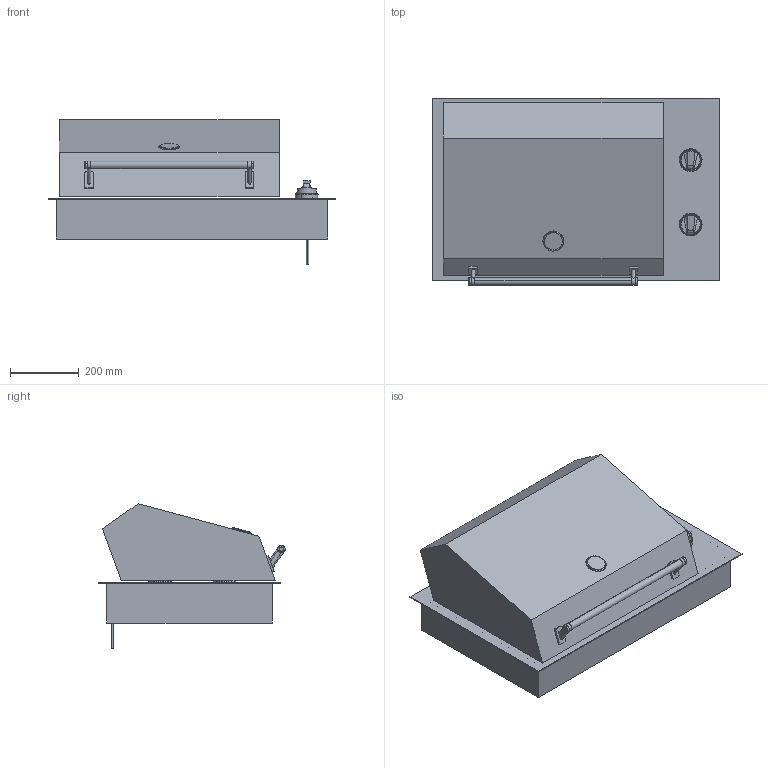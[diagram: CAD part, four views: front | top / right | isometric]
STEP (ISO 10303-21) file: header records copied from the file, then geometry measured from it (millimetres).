
FILE_DESCRIPTION(/* description */ ('Unknown'),/* implementation_level */ '2;1');
FILE_NAME(/* name */ 'BBQE90X',/* time_stamp */ '2025-07-17T13:45:45+02:00',/* author */ ('Unknown'),/* organization */ ('Unknown'),/* preprocessor_version */ 'ST-DEVELOPER v16.7',/* originating_system */ 'DEX',/* authorisation */ $);
FILE_SCHEMA (('AUTOMOTIVE_DESIGN {1 0 10303 214 3 1 1}'));
Length unit declared in the file: millimetre
Products named in the file (1): BBQE90X
Bounding box: 836 x 542.38 x 420.38 mm (x, y, z)
Volume: 97121120.9 mm3; surface area: 3013858.5 mm2
Topology: 17 solids, 17 shells, 147 faces, 323 edges, 218 vertices
Faces by surface type: plane 73, bspline 41, cylinder 26, cone 7
Full cylindrical faces by diameter (mm): 11.999 x2, 60.434 x1
Entity records: 6902 total; most frequent: CARTESIAN_POINT 3713, ORIENTED_EDGE 622, DIRECTION 485, EDGE_CURVE 311, VERTEX_POINT 214, AXIS2_PLACEMENT_3D 198, EDGE_LOOP 167, FACE_BOUND 167
